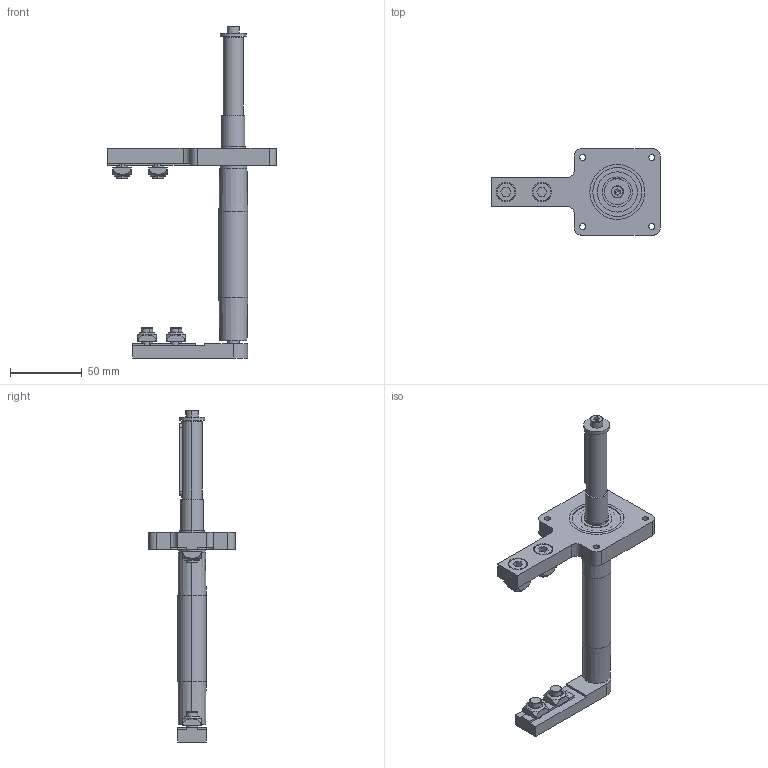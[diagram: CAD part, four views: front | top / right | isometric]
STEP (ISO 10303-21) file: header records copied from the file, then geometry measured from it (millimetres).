
FILE_DESCRIPTION (( 'STEP AP214' ), '1' );
FILE_NAME ('084.020.KD.30.100.STEP', '2021-02-05T13:41:44', ( '' ), ( '' ), 'SwSTEP 2.0', 'SolidWorks 2018', '' );
FILE_SCHEMA (( 'AUTOMOTIVE_DESIGN' ));
Length unit declared in the file: millimetre
Products named in the file (13): CHIAVETTE_A 5x5x50 UNI 6604-69; 084.800.007; 084.800.008; 084.800.030; 084.301.000 VITI ALUSIC_084.301.002; 084.800.001-1; 084.020.KD.30.100; Washer ISO 7094 - 5_Washer ISO 7094 - 5; 084.800.012; 084.302.000 DADI ALUSIC 13x13-1_084.302.004; 084.800.002; 084.802.016_084.802.016; ISO 4762 M5 x 16 --- 16S_ISO 4762 M5 x 16 --- 16S
Assembly tree (19 placements, depth 2):
  084.020.KD.30.100
    084.800.030
    084.800.001-1
    084.802.016_084.802.016
    084.301.000 VITI ALUSIC_084.301.002  x4
    084.302.000 DADI ALUSIC 13x13-1_084.302.004  x4
    084.800.012  x2
    084.800.008
    084.800.002
    084.800.007
    Washer ISO 7094 - 5_Washer ISO 7094 - 5
    ISO 4762 M5 x 16 --- 16S_ISO 4762 M5 x 16 --- 16S
    CHIAVETTE_A 5x5x50 UNI 6604-69
Bounding box: 117.5 x 60 x 231.1 mm (x, y, z)
Volume: 118803.3 mm3; surface area: 56038.9 mm2
Topology: 20 solids, 21 shells, 573 faces, 1380 edges, 870 vertices
Faces by surface type: cylinder 194, plane 175, cone 106, torus 78, bspline 16, sphere 4
Entity records: 13358 total; most frequent: CARTESIAN_POINT 2519, DIRECTION 2347, ORIENTED_EDGE 1982, EDGE_CURVE 991, AXIS2_PLACEMENT_3D 961, VERTEX_POINT 627, CIRCLE 530, EDGE_LOOP 466
